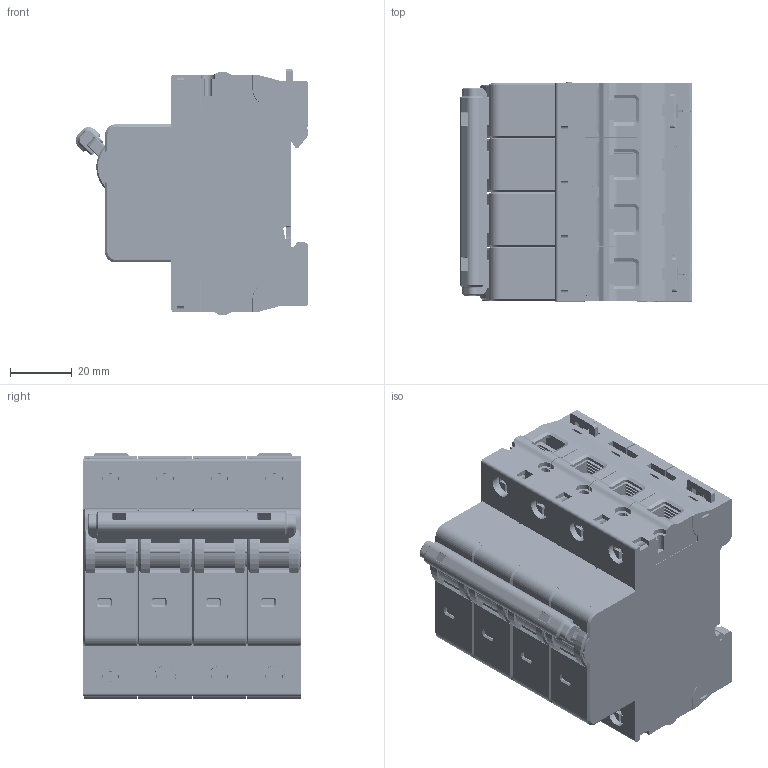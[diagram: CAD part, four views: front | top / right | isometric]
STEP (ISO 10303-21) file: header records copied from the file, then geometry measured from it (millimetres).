
FILE_DESCRIPTION((''),'2;1');
FILE_NAME('2255008300_ASM_SW0001','2019-10-15T',('gang.wang'),(''),'PRO/ENGINEER BY PARAMETRIC TECHNOLOGY CORPORATION, 2015440','PRO/ENGINEER BY PARAMETRIC TECHNOLOGY CORPORATION, 2015440','');
FILE_SCHEMA(('CONFIG_CONTROL_DESIGN'));
Products named in the file (1): 2255008300_ASM_SW0001
Bounding box: 75.51 x 70.95 x 79.9 mm (x, y, z)
Volume: 258914 mm3; surface area: 107891.5 mm2
Topology: 1 solids, 24 shells, 9846 faces, 27704 edges, 18296 vertices
Faces by surface type: plane 6837, cylinder 1677, extrusion 939, cone 267, torus 55, bspline 36, sphere 35
Entity records: 322539 total; most frequent: CARTESIAN_POINT 69288, ORIENTED_EDGE 55338, DIRECTION 47816, EDGE_CURVE 27669, VECTOR 22116, LINE 21177, VERTEX_POINT 18296, AXIS2_PLACEMENT_3D 12850
